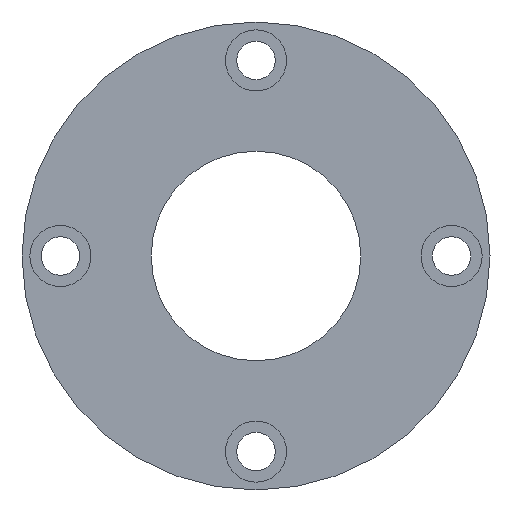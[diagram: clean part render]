
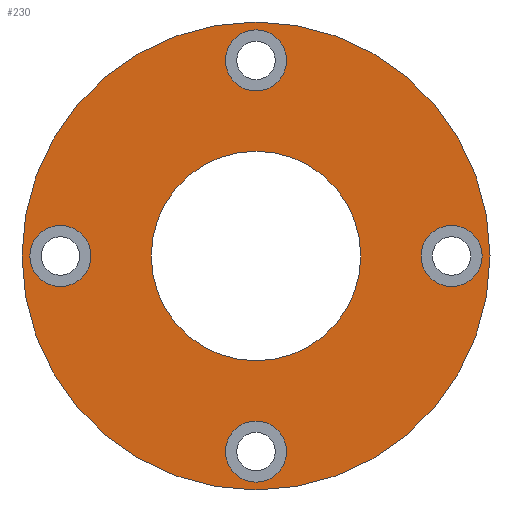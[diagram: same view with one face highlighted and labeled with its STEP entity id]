
A CAD part, front view. The second image highlights one B-rep face of the part: STEP entity #230.
In plain terms, the highlighted planar face has unit normal (0, -1, 0).
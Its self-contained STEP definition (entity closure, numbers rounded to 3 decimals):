
#12 = DIRECTION ( 'NONE',  ( 0., 0., -1. ) ) ;
#15 = ORIENTED_EDGE ( 'NONE', *, *, #330, .T. ) ;
#18 = CIRCLE ( 'NONE', #131, 67. ) ;
#20 = VERTEX_POINT ( 'NONE', #502 ) ;
#23 = AXIS2_PLACEMENT_3D ( 'NONE', #293, #709, #432 ) ;
#40 = CARTESIAN_POINT ( 'NONE',  ( 111., -55., 8.75 ) ) ;
#60 = EDGE_LOOP ( 'NONE', ( #144, #671 ) ) ;
#61 = CARTESIAN_POINT ( 'NONE',  ( 55., -55., 64.75 ) ) ;
#65 = CIRCLE ( 'NONE', #689, 30. ) ;
#66 = CARTESIAN_POINT ( 'NONE',  ( 55., -55., -47.25 ) ) ;
#71 = EDGE_CURVE ( 'NONE', #732, #773, #97, .T. ) ;
#83 = EDGE_CURVE ( 'NONE', #563, #712, #431, .T. ) ;
#87 = DIRECTION ( 'NONE',  ( 0., 0., -1. ) ) ;
#97 = CIRCLE ( 'NONE', #23, 8.75 ) ;
#105 = ORIENTED_EDGE ( 'NONE', *, *, #300, .T. ) ;
#108 = CARTESIAN_POINT ( 'NONE',  ( -1., -55., 8.75 ) ) ;
#126 = CARTESIAN_POINT ( 'NONE',  ( 55., -55., -30. ) ) ;
#131 = AXIS2_PLACEMENT_3D ( 'NONE', #307, #314, #240 ) ;
#144 = ORIENTED_EDGE ( 'NONE', *, *, #890, .T. ) ;
#154 = AXIS2_PLACEMENT_3D ( 'NONE', #771, #512, #780 ) ;
#159 = ORIENTED_EDGE ( 'NONE', *, *, #606, .F. ) ;
#172 = DIRECTION ( 'NONE',  ( 0., 0., -1. ) ) ;
#174 = EDGE_LOOP ( 'NONE', ( #662, #159 ) ) ;
#175 = DIRECTION ( 'NONE',  ( 0., 0., -1. ) ) ;
#195 = PLANE ( 'NONE',  #210 ) ;
#198 = CIRCLE ( 'NONE', #589, 8.75 ) ;
#201 = DIRECTION ( 'NONE',  ( 0., -1., 0. ) ) ;
#205 = FACE_BOUND ( 'NONE', #864, .T. ) ;
#209 = FACE_OUTER_BOUND ( 'NONE', #174, .T. ) ;
#210 = AXIS2_PLACEMENT_3D ( 'NONE', #553, #201, #475 ) ;
#229 = ORIENTED_EDGE ( 'NONE', *, *, #71, .T. ) ;
#230 = ADVANCED_FACE ( 'NONE', ( #422, #205, #273, #685, #830, #209 ), #195, .T. ) ;
#237 = DIRECTION ( 'NONE',  ( 0., 0., -1. ) ) ;
#240 = DIRECTION ( 'NONE',  ( 0., 0., -1. ) ) ;
#249 = VERTEX_POINT ( 'NONE', #126 ) ;
#271 = CARTESIAN_POINT ( 'NONE',  ( 55., -55., 56. ) ) ;
#273 = FACE_BOUND ( 'NONE', #275, .T. ) ;
#275 = EDGE_LOOP ( 'NONE', ( #872, #15 ) ) ;
#276 = CARTESIAN_POINT ( 'NONE',  ( 55., -55., -56. ) ) ;
#281 = DIRECTION ( 'NONE',  ( 0., 0., 1. ) ) ;
#282 = CARTESIAN_POINT ( 'NONE',  ( 55., -55., -67. ) ) ;
#289 = AXIS2_PLACEMENT_3D ( 'NONE', #728, #390, #796 ) ;
#293 = CARTESIAN_POINT ( 'NONE',  ( 55., -55., -56. ) ) ;
#297 = DIRECTION ( 'NONE',  ( 0., 1., 0. ) ) ;
#300 = EDGE_CURVE ( 'NONE', #20, #525, #889, .T. ) ;
#307 = CARTESIAN_POINT ( 'NONE',  ( 55., -55., 0. ) ) ;
#313 = CIRCLE ( 'NONE', #154, 8.75 ) ;
#314 = DIRECTION ( 'NONE',  ( 0., 1., 0. ) ) ;
#330 = EDGE_CURVE ( 'NONE', #768, #844, #762, .T. ) ;
#336 = CIRCLE ( 'NONE', #799, 8.75 ) ;
#340 = CARTESIAN_POINT ( 'NONE',  ( 55., -55., -64.75 ) ) ;
#349 = CARTESIAN_POINT ( 'NONE',  ( 111., -55., -8.75 ) ) ;
#356 = AXIS2_PLACEMENT_3D ( 'NONE', #276, #499, #12 ) ;
#367 = VERTEX_POINT ( 'NONE', #282 ) ;
#390 = DIRECTION ( 'NONE',  ( 0., 1., 0. ) ) ;
#403 = DIRECTION ( 'NONE',  ( 0., 0., 1. ) ) ;
#411 = CIRCLE ( 'NONE', #612, 30. ) ;
#418 = CIRCLE ( 'NONE', #356, 8.75 ) ;
#419 = ORIENTED_EDGE ( 'NONE', *, *, #485, .T. ) ;
#421 = EDGE_CURVE ( 'NONE', #844, #768, #313, .T. ) ;
#422 = FACE_BOUND ( 'NONE', #691, .T. ) ;
#431 = CIRCLE ( 'NONE', #660, 8.75 ) ;
#432 = DIRECTION ( 'NONE',  ( 0., 0., -1. ) ) ;
#454 = DIRECTION ( 'NONE',  ( 0., 1., 0. ) ) ;
#475 = DIRECTION ( 'NONE',  ( 0., 0., 1. ) ) ;
#485 = EDGE_CURVE ( 'NONE', #712, #563, #336, .T. ) ;
#499 = DIRECTION ( 'NONE',  ( 0., 1., 0. ) ) ;
#502 = CARTESIAN_POINT ( 'NONE',  ( -1., -55., -8.75 ) ) ;
#504 = ORIENTED_EDGE ( 'NONE', *, *, #865, .T. ) ;
#512 = DIRECTION ( 'NONE',  ( 0., 1., 0. ) ) ;
#525 = VERTEX_POINT ( 'NONE', #108 ) ;
#536 = CARTESIAN_POINT ( 'NONE',  ( 55., -55., 30. ) ) ;
#553 = CARTESIAN_POINT ( 'NONE',  ( -12., -55., 0. ) ) ;
#554 = EDGE_CURVE ( 'NONE', #367, #878, #683, .T. ) ;
#563 = VERTEX_POINT ( 'NONE', #40 ) ;
#564 = CARTESIAN_POINT ( 'NONE',  ( -1., -55., 0. ) ) ;
#570 = EDGE_CURVE ( 'NONE', #752, #249, #411, .T. ) ;
#578 = DIRECTION ( 'NONE',  ( 0., 1., 0. ) ) ;
#589 = AXIS2_PLACEMENT_3D ( 'NONE', #564, #836, #281 ) ;
#606 = EDGE_CURVE ( 'NONE', #878, #367, #18, .T. ) ;
#612 = AXIS2_PLACEMENT_3D ( 'NONE', #787, #733, #172 ) ;
#615 = ORIENTED_EDGE ( 'NONE', *, *, #83, .T. ) ;
#619 = DIRECTION ( 'NONE',  ( 0., 1., 0. ) ) ;
#621 = CARTESIAN_POINT ( 'NONE',  ( -1., -55., 0. ) ) ;
#643 = CARTESIAN_POINT ( 'NONE',  ( 55., -55., 67. ) ) ;
#660 = AXIS2_PLACEMENT_3D ( 'NONE', #838, #578, #87 ) ;
#662 = ORIENTED_EDGE ( 'NONE', *, *, #554, .F. ) ;
#671 = ORIENTED_EDGE ( 'NONE', *, *, #570, .T. ) ;
#683 = CIRCLE ( 'NONE', #289, 67. ) ;
#685 = FACE_BOUND ( 'NONE', #867, .T. ) ;
#689 = AXIS2_PLACEMENT_3D ( 'NONE', #845, #297, #700 ) ;
#691 = EDGE_LOOP ( 'NONE', ( #419, #615 ) ) ;
#699 = ORIENTED_EDGE ( 'NONE', *, *, #811, .T. ) ;
#700 = DIRECTION ( 'NONE',  ( 0., 0., -1. ) ) ;
#709 = DIRECTION ( 'NONE',  ( 0., 1., 0. ) ) ;
#712 = VERTEX_POINT ( 'NONE', #349 ) ;
#718 = CARTESIAN_POINT ( 'NONE',  ( 55., -55., 47.25 ) ) ;
#728 = CARTESIAN_POINT ( 'NONE',  ( 55., -55., 0. ) ) ;
#732 = VERTEX_POINT ( 'NONE', #66 ) ;
#733 = DIRECTION ( 'NONE',  ( 0., 1., 0. ) ) ;
#744 = CARTESIAN_POINT ( 'NONE',  ( 111., -55., 0. ) ) ;
#752 = VERTEX_POINT ( 'NONE', #536 ) ;
#758 = DIRECTION ( 'NONE',  ( 0., 1., 0. ) ) ;
#762 = CIRCLE ( 'NONE', #777, 8.75 ) ;
#768 = VERTEX_POINT ( 'NONE', #61 ) ;
#771 = CARTESIAN_POINT ( 'NONE',  ( 55., -55., 56. ) ) ;
#773 = VERTEX_POINT ( 'NONE', #340 ) ;
#777 = AXIS2_PLACEMENT_3D ( 'NONE', #271, #758, #237 ) ;
#780 = DIRECTION ( 'NONE',  ( 0., 0., -1. ) ) ;
#787 = CARTESIAN_POINT ( 'NONE',  ( 55., -55., 0. ) ) ;
#796 = DIRECTION ( 'NONE',  ( 0., 0., -1. ) ) ;
#799 = AXIS2_PLACEMENT_3D ( 'NONE', #744, #454, #175 ) ;
#811 = EDGE_CURVE ( 'NONE', #773, #732, #418, .T. ) ;
#830 = FACE_BOUND ( 'NONE', #60, .T. ) ;
#836 = DIRECTION ( 'NONE',  ( 0., 1., 0. ) ) ;
#838 = CARTESIAN_POINT ( 'NONE',  ( 111., -55., 0. ) ) ;
#844 = VERTEX_POINT ( 'NONE', #718 ) ;
#845 = CARTESIAN_POINT ( 'NONE',  ( 55., -55., 0. ) ) ;
#864 = EDGE_LOOP ( 'NONE', ( #699, #229 ) ) ;
#865 = EDGE_CURVE ( 'NONE', #525, #20, #198, .T. ) ;
#867 = EDGE_LOOP ( 'NONE', ( #105, #504 ) ) ;
#872 = ORIENTED_EDGE ( 'NONE', *, *, #421, .T. ) ;
#877 = AXIS2_PLACEMENT_3D ( 'NONE', #621, #619, #403 ) ;
#878 = VERTEX_POINT ( 'NONE', #643 ) ;
#889 = CIRCLE ( 'NONE', #877, 8.75 ) ;
#890 = EDGE_CURVE ( 'NONE', #249, #752, #65, .T. ) ;
